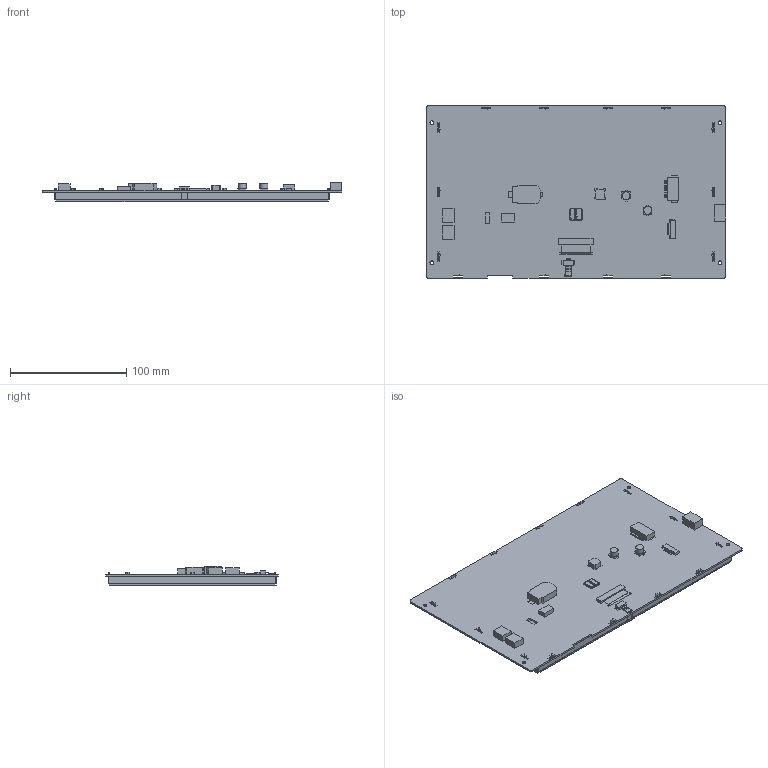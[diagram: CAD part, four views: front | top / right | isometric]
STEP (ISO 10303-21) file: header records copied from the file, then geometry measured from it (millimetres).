
FILE_DESCRIPTION(/* description */ (''),/* implementation_level */ '2;1');
FILE_NAME(/* name */ '',/* time_stamp */ '2023-07-26T18:12:17+08:00',/* author */ (''),/* organization */ (''),/* preprocessor_version */ 'ST-DEVELOPER v11',/* originating_system */ 'SIEMENS PLM Software NX 7.5',/* authorisation */ '');
FILE_SCHEMA (('AP203_CONFIGURATION_CONTROLLED_3D_DESIGN_OF_MECHANICAL_PARTS_AND_ASSEMBLIES_MIM_LF'));
Length unit declared in the file: millimetre
Products named in the file (1): 3D-SDWb101U74T_stp
Bounding box: 257.8 x 148.1 x 16.71 mm (x, y, z)
Volume: 127729.5 mm3; surface area: 233345 mm2
Topology: 24 solids, 24 shells, 1710 faces, 4868 edges, 3219 vertices
Faces by surface type: plane 1472, cylinder 231, bspline 7
Full cylindrical faces by diameter (mm): 3.2 x4, 6.776 x2
Entity records: 57535 total; most frequent: CARTESIAN_POINT 10217, ORIENTED_EDGE 9720, DIRECTION 8643, EDGE_CURVE 4860, LINE 4361, VECTOR 4361, VERTEX_POINT 3217, AXIS2_PLACEMENT_3D 2141
